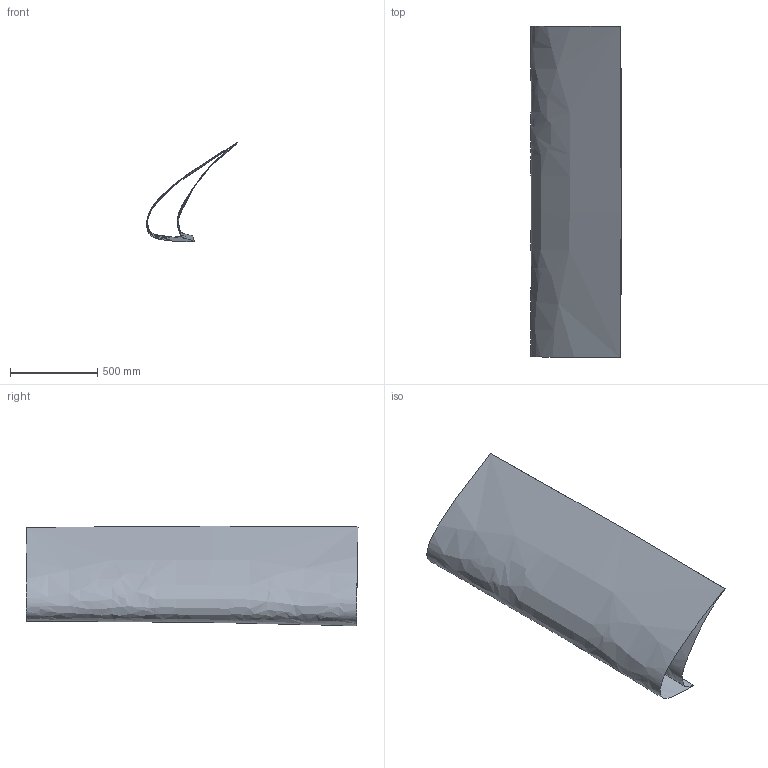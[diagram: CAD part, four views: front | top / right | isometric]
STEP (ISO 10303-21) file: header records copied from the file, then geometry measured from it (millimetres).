
FILE_DESCRIPTION((''),'2;1');
FILE_NAME('','2022-05-11T22:07:55',(''),(''),'','CADfix','');
FILE_SCHEMA(('AUTOMOTIVE_DESIGN { 1 0 10303 214 1 1 1 1 }'));
Length unit declared in the file: inch
Bounding box: 522.38 x 1906.53 x 572.31 mm (x, y, z)
Surface area: 3353833 mm2 (no closed solid volume)
Topology: 0 solids, 0 shells, 2 faces, 8 edges, 8 vertices
Faces by surface type: bspline 2
Entity records: 14963 total; most frequent: CARTESIAN_POINT 14942, B_SPLINE_SURFACE_WITH_KNOTS 2, DIMENSIONAL_EXPONENTS 2, PLANE_ANGLE_MEASURE_WITH_UNIT 1, LENGTH_MEASURE_WITH_UNIT 1, UNCERTAINTY_MEASURE_WITH_UNIT 1, GEOMETRIC_SET 1, GEOMETRICALLY_BOUNDED_SURFACE_SHAPE_REPRESENTATION 1
